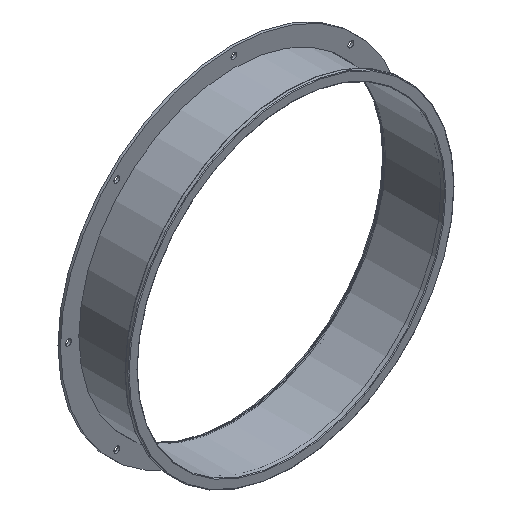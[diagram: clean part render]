
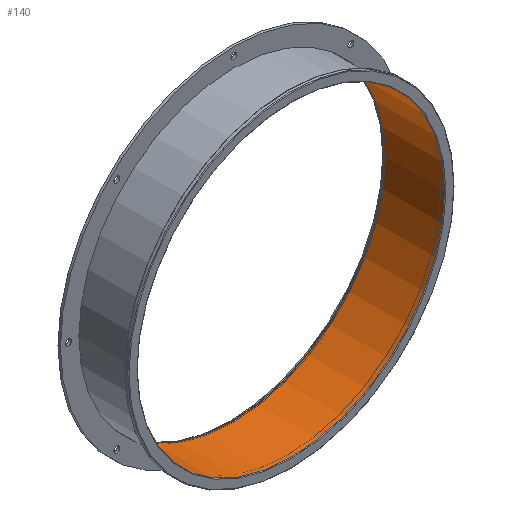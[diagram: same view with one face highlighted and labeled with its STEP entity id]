
A CAD part, isometric view. The second image highlights one B-rep face of the part: STEP entity #140.
In plain terms, the highlighted cylindrical face has radius 250 mm (diameter 500 mm), a full revolution.
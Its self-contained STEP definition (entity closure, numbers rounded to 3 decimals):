
#140=ADVANCED_FACE('',(#229,#230),#162,.F.);
#162=CYLINDRICAL_SURFACE('',#587,250.);
#229=FACE_BOUND('',#309,.T.);
#230=FACE_BOUND('',#310,.T.);
#309=EDGE_LOOP('',(#389));
#310=EDGE_LOOP('',(#390));
#389=ORIENTED_EDGE('',*,*,#480,.T.);
#390=ORIENTED_EDGE('',*,*,#481,.T.);
#440=VERTEX_POINT('',#840);
#441=VERTEX_POINT('',#842);
#480=EDGE_CURVE('',#440,#440,#520,.T.);
#481=EDGE_CURVE('',#441,#441,#521,.T.);
#520=CIRCLE('',#585,250.);
#521=CIRCLE('',#586,250.);
#585=AXIS2_PLACEMENT_3D('',#839,#718,#719);
#586=AXIS2_PLACEMENT_3D('',#841,#720,#721);
#587=AXIS2_PLACEMENT_3D('',#843,#722,#723);
#718=DIRECTION('',(0.,-1.,0.));
#719=DIRECTION('',(-1.,0.,0.));
#720=DIRECTION('',(0.,1.,0.));
#721=DIRECTION('',(1.,0.,0.));
#722=DIRECTION('',(0.,1.,0.));
#723=DIRECTION('',(1.,0.,0.));
#839=CARTESIAN_POINT('',(0.,1.,0.));
#840=CARTESIAN_POINT('',(-250.,1.,0.));
#841=CARTESIAN_POINT('',(0.,99.,0.));
#842=CARTESIAN_POINT('',(250.,99.,0.));
#843=CARTESIAN_POINT('',(0.,-192.076,0.));
